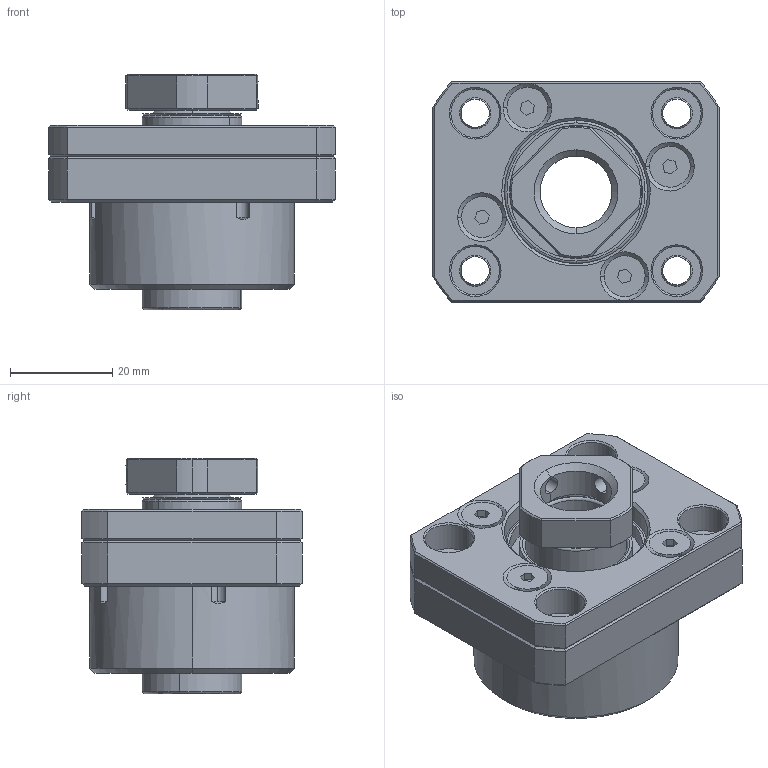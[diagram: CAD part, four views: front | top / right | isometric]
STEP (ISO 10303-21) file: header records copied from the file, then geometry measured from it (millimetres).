
FILE_DESCRIPTION (( 'STEP AP203' ), '1' );
FILE_NAME ('FKA15²Õ¦X¥óA.STEP', '2021-09-29T02:56:18', ( '' ), ( '' ), 'SwSTEP 2.0', 'SolidWorks 2018', '' );
FILE_SCHEMA (( 'CONFIG_CONTROL_DESIGN' ));
Length unit declared in the file: millimetre
Products named in the file (1): FKA15組合件A
Bounding box: 56 x 43 x 46 mm (x, y, z)
Surface area: 20615.7 mm2 (no closed solid volume)
Topology: 0 solids, 13 shells, 264 faces, 667 edges, 411 vertices
Faces by surface type: cylinder 87, plane 83, cone 72, torus 18, bspline 4
Entity records: 8522 total; most frequent: CARTESIAN_POINT 2015, DIRECTION 1422, ORIENTED_EDGE 1253, EDGE_CURVE 667, AXIS2_PLACEMENT_3D 572, VERTEX_POINT 411, CIRCLE 311, EDGE_LOOP 308
